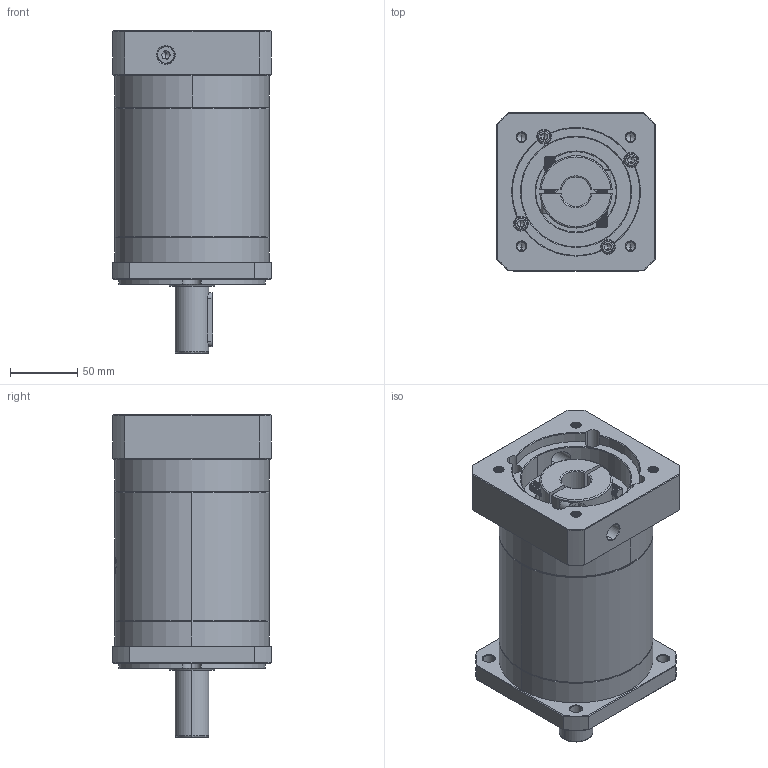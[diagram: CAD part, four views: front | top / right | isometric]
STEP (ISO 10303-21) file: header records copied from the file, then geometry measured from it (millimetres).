
FILE_DESCRIPTION (( 'STEP AP214' ), '1' );
FILE_NAME ('ZF120A-D25-L3-P2-22-95-115-M8.step', '2023-08-27T04:42:20', ( '' ), ( '' ), 'SwSTEP 2.0', 'SolidWorks 2016', '' );
FILE_SCHEMA (( 'AUTOMOTIVE_DESIGN' ));
Length unit declared in the file: millimetre
Products named in the file (1): ZF120A-D25-L3-P2-22-95-115-M8
Bounding box: 118 x 118 x 240.5 mm (x, y, z)
Volume: 1952602.4 mm3; surface area: 180182.1 mm2
Topology: 6 solids, 6 shells, 2234 faces, 5943 edges, 3810 vertices
Faces by surface type: plane 1034, bspline 439, cylinder 429, cone 332
Entity records: 123257 total; most frequent: CARTESIAN_POINT 48652, ORIENTED_EDGE 11826, DIRECTION 8539, EDGE_CURVE 5913, VERTEX_POINT 3810, VECTOR 3099, LINE 3099, AXIS2_PLACEMENT_3D 2720
